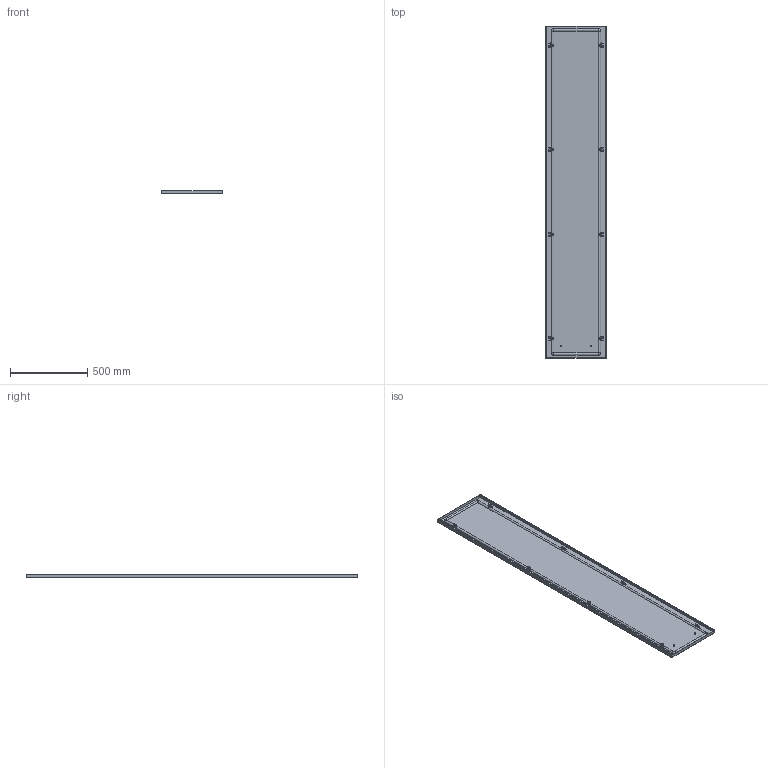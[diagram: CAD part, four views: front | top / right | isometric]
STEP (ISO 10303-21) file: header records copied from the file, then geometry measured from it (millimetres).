
FILE_DESCRIPTION(('Open CASCADE Model'),'2;1');
FILE_NAME('Open CASCADE Shape Model','2025-02-07T16:30:44',('Author'),( 'Open CASCADE'),'Open CASCADE STEP processor 7.8','Open CASCADE 7.8' ,'Unknown');
FILE_SCHEMA(('AUTOMOTIVE_DESIGN { 1 0 10303 214 1 1 1 1 }'));
Length unit declared in the file: millimetre
Products named in the file (10): Compound1; Compound2; Compound3; Solid1; Solid2; Solid3; Solid4; Solid5; Solid6; Solid7
Assembly tree (40 placements, depth 4):
  Compound1
    Compound2
      Compound3
        Solid1
        Solid2  x4
      Solid3
    Solid4  x8
    Solid5  x8
    Solid6  x8
    Solid7  x8
Bounding box: 394 x 2155 x 23.8 mm (x, y, z)
Volume: 1927198.2 mm3; surface area: 2200662.1 mm2
Topology: 38 solids, 38 shells, 1655 faces, 4040 edges, 2460 vertices
Faces by surface type: plane 1043, cone 308, cylinder 268, torus 28, bspline 8
Full cylindrical faces by diameter (mm): 5 x16, 6 x132, 7.5 x4, 8 x16, 10 x8, 11.57 x8
Entity records: 7757 total; most frequent: CARTESIAN_POINT 1447, DIRECTION 1265, ORIENTED_EDGE 1244, EDGE_CURVE 622, AXIS2_PLACEMENT_3D 428, LINE 409, VECTOR 409, VERTEX_POINT 387
